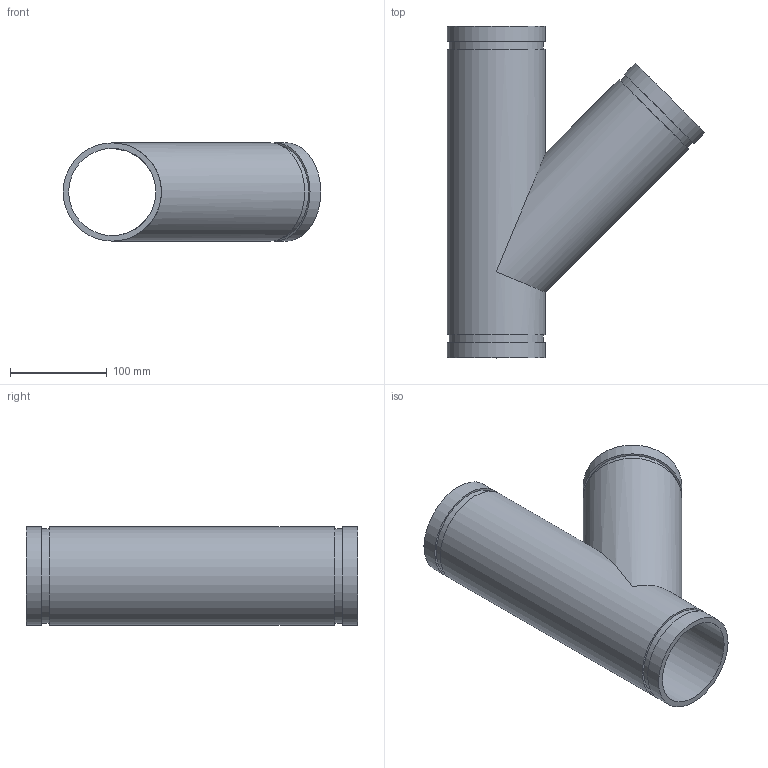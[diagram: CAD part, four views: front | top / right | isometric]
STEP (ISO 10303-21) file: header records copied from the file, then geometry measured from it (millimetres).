
FILE_DESCRIPTION(/* description */ ('VIC 45 DEG FABRICATED LATERAL No 30 SWS (OGS)','CAx-IF Rec.Pracs.---Representation and Presentation of Product Manufacturing Information (PMI)---4.0---2014-10-13'),/* implementation_level */ '2;1');
FILE_NAME(/* name */ 'C:\Users\kkamble\AppData\Roaming\Autodesk\ApplicationPlugins\Back Up\Victaulic_IPS_Lateral 45 Deg_No 30 SWS (OGS)\Victaulic_IPS_Lateral 45 Deg_No 30 SWS (OGS)_3.5 (90).stp',/* time_stamp */ '2020-09-16T22:20:44+06:00',/* author */ ('cgray'),/* organization */ ('Victaulic'),/* preprocessor_version */ 'ST-DEVELOPER v17.2',/* originating_system */ 'Autodesk Inventor 2019',/* authorisation */ '');
FILE_SCHEMA (('AP242_MANAGED_MODEL_BASED_3D_ENGINEERING_MIM_LF { 1 0 10303 442 1 1 4 }'));
Length unit declared in the file: inch
Products named in the file (1): 30 SWS-03.5
Bounding box: 266.33 x 342.9 x 101.6 mm (x, y, z)
Volume: 866789.1 mm3; surface area: 316171.4 mm2
Topology: 1 solids, 1 shells, 19 faces, 45 edges, 34 vertices
Faces by surface type: cylinder 10, plane 9
Full cylindrical faces by diameter (mm): 90.119 x2, 97.384 x3, 101.6 x5
Entity records: 748 total; most frequent: DIRECTION 145, CARTESIAN_POINT 116, ORIENTED_EDGE 90, AXIS2_PLACEMENT_3D 67, EDGE_CURVE 45, VERTEX_POINT 34, EDGE_LOOP 29, CIRCLE 27
